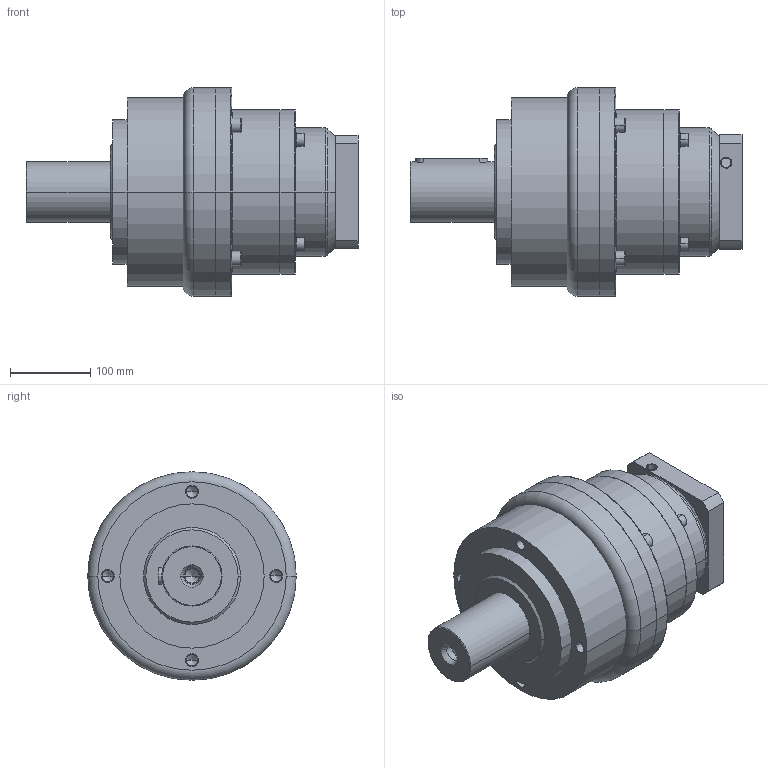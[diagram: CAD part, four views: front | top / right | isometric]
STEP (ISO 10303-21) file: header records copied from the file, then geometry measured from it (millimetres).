
FILE_DESCRIPTION((''),'2;1');
FILE_NAME('AE2352-P0403600102_ASM','2023-02-08T',('Administrator'),(''),'PRO/ENGINEER BY PARAMETRIC TECHNOLOGY CORPORATION, 2015240','PRO/ENGINEER BY PARAMETRIC TECHNOLOGY CORPORATION, 2015240','');
FILE_SCHEMA(('CONFIG_CONTROL_DESIGN'));
Length unit declared in the file: millimetre
Products named in the file (7): P1302600001_D; P0206700001_D; AE235; AB-INPUTSHAFT-6; AE2352_ASM; P0403600102-0007; AE2352-P0403600102_ASM
Assembly tree (6 placements, depth 3):
  AE2352-P0403600102_ASM
    AE2352_ASM
      P1302600001_D
      P0206700001_D
      AE235
      AB-INPUTSHAFT-6
    P0403600102-0007
Bounding box: 414 x 260 x 260 mm (x, y, z)
Volume: 10955941.7 mm3; surface area: 616888.2 mm2
Topology: 5 solids, 15 shells, 254 faces, 598 edges, 375 vertices
Faces by surface type: cylinder 131, plane 59, cone 44, torus 20
Entity records: 7606 total; most frequent: DIRECTION 1482, CARTESIAN_POINT 1323, ORIENTED_EDGE 1120, AXIS2_PLACEMENT_3D 634, EDGE_CURVE 580, VERTEX_POINT 375, CIRCLE 359, EDGE_LOOP 313
